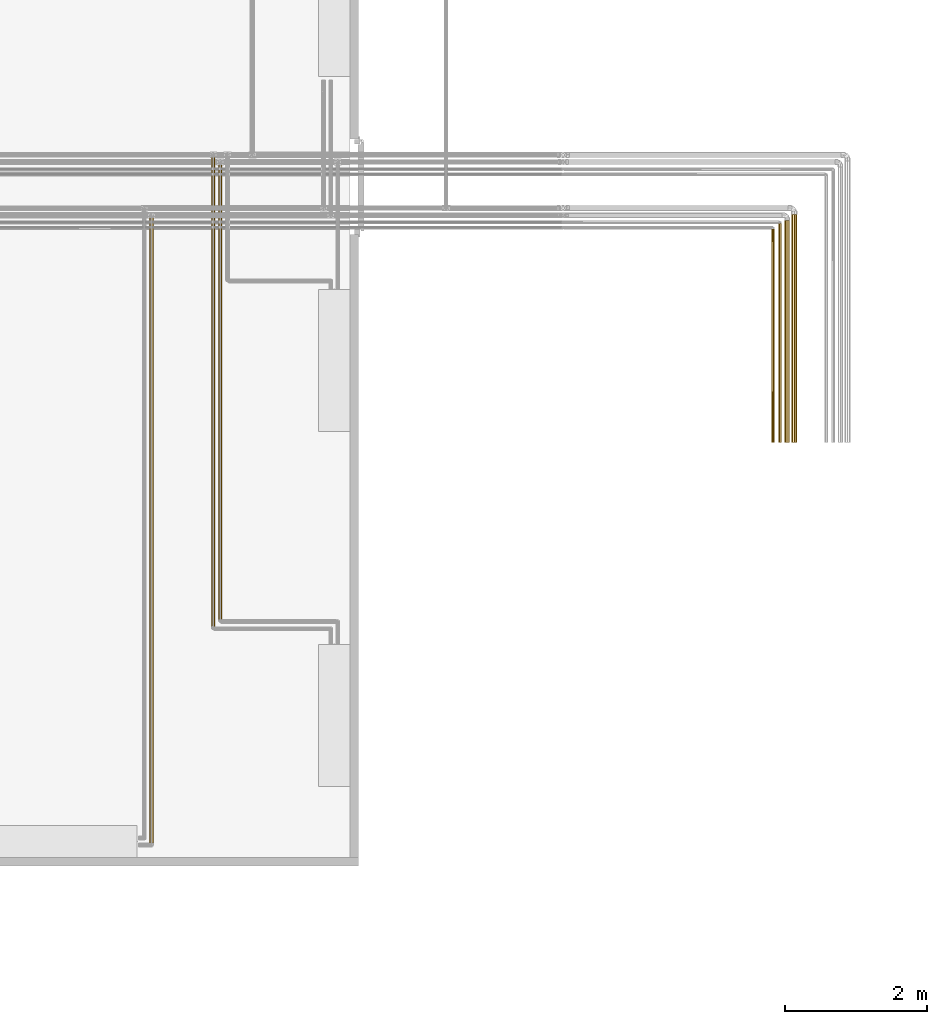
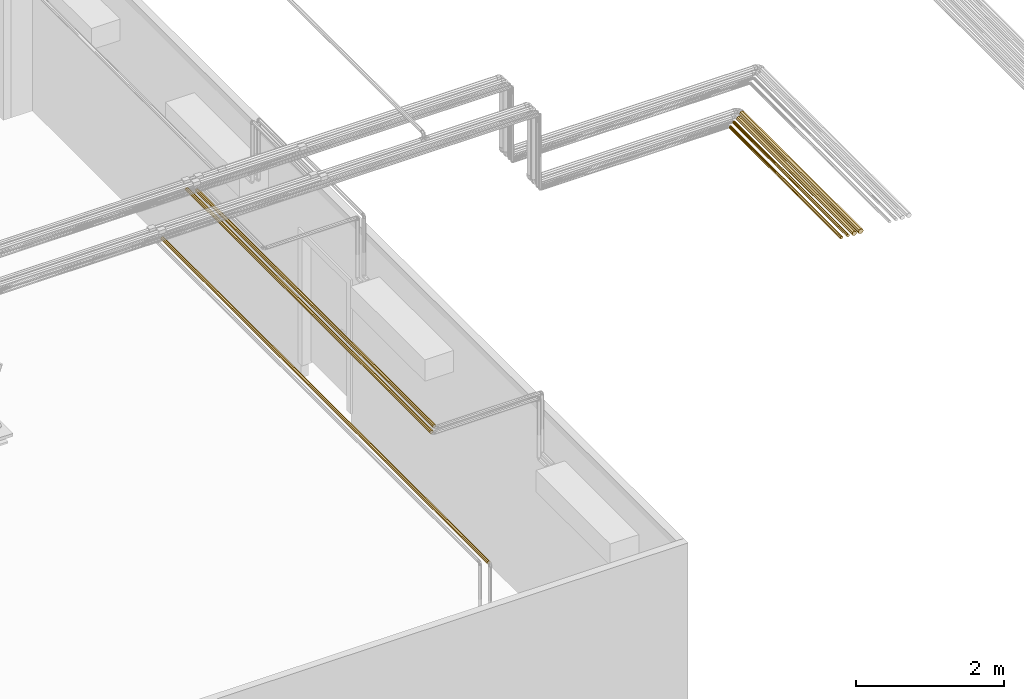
# One storey, part 102 of 652: 7 coverings.
"""IFC2X3 building model written with IfcOpenShell, lengths in millimetres."""

from ifc_helpers import new_model, entity, si_unit, converted_unit, direction, frame, origin, place, context, subcontext, project, spatial, faceted_brep, material, type_object, element, save


model = new_model("IFC2X3")

# Units and contexts
model_context = context("Model", 3, precision=0.01, world=frame((0.0, 0.0, 308426.39999999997)), true_north=direction((6.123233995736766e-17, 1.0)))
plan_context = context("Plan", 3, precision=0.01, world=frame((0.0, 0.0, 308426.39999999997)), true_north=direction((6.123233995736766e-17, 1.0)))
body_context = subcontext(model_context, "Body", "Model", "MODEL_VIEW")
ifc_project = project(units=[si_unit("LENGTHUNIT", "METRE", prefix="MILLI"), si_unit("AREAUNIT", "SQUARE_METRE"), si_unit("VOLUMEUNIT", "CUBIC_METRE"), converted_unit("PLANEANGLEUNIT", "DEGREE", entity("IfcPlaneAngleMeasure", 0.017453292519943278), si_unit("PLANEANGLEUNIT", "RADIAN"), dimensions=[0, 0, 0, 0, 0, 0, 0])], contexts=[model_context, plan_context])

# Site, building, storey
site_placement = place(None, origin())
site = spatial("IfcSite", under=ifc_project, at=site_placement, Name="Default", CompositionType="ELEMENT")
building_placement = place(site_placement, origin())
building = spatial("IfcBuilding", under=site, at=building_placement, CompositionType="ELEMENT")
storey_placement = place(building_placement, frame((0.0, 0.0, 1730.6999999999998)))
storey = spatial("IfcBuildingStorey", under=building, at=storey_placement, Name="EG_Produktion_FFB", CompositionType="ELEMENT", Elevation=1730.6999999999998)

# Coverings
ifc_material = material(Name="Dämmung - Armaflex-Schlauch")
covering_type = type_object("IfcCoveringType", Name="Rohrdämmung außen:Armaflex-Schlauch", PredefinedType="INSULATION")
covering_1_placement = place(storey_placement, frame((72616.9422277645, 37576.577886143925, 2526.895152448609)))
element("IfcCovering", 1, at=covering_1_placement, inside=storey, type_object=covering_type, material=ifc_material, Name="Rohrdämmung außen:Armaflex-Schlauch", ObjectType="Rohrdämmung außen:Armaflex-Schlauch", PredefinedType="INSULATION", context=body_context, shape_type="Brep", body=[
    faceted_brep([(38.057772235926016, 3124.3378638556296, 1.595272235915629), (31.87132064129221, 3124.3378638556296, 4.157784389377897), (25.166331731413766, 3124.3378638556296, 6.935081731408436), (18.72061147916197, 3124.3378638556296, 9.60498647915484), (12.274891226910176, 3124.3378638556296, 12.274891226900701), (9.60498647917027, 3124.3378638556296, 18.720611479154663), (6.935081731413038, 3124.3378638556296, 25.166331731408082), (4.265176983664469, 3124.3378638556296, 31.61205198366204), (1.5952722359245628, 3124.3378638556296, 38.05777223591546), (4.157784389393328, 3124.3378638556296, 44.24422383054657), (6.935081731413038, 3124.3378638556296, 50.9492127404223), (9.604986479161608, 3124.3378638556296, 57.39493299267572), (12.274891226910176, 3124.3378638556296, 63.840653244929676), (18.72061147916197, 3124.3378638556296, 66.51055799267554), (25.166331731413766, 3124.3378638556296, 69.18046274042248), (31.612051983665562, 3124.3378638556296, 71.85036748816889), (38.057772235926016, 3124.3378638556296, 74.5202722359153), (44.244223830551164, 3124.3378638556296, 71.95776008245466), (50.94921274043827, 3124.3378638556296, 69.18046274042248), (57.394932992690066, 3124.3378638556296, 66.51055799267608), (63.84065324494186, 3124.3378638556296, 63.840653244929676), (66.51055799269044, 3124.3378638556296, 57.39493299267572), (69.180462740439, 3124.3378638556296, 50.9492127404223), (71.85036748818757, 3124.3378638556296, 44.50349248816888), (74.52027223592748, 3124.3378638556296, 38.05777223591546), (71.8503674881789, 3124.3378638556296, 31.61205198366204), (69.180462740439, 3124.3378638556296, 25.166331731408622), (66.51055799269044, 3124.3378638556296, 18.720611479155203), (63.84065324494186, 3124.3378638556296, 12.274891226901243), (57.394932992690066, 3124.3378638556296, 9.60498647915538), (50.94921274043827, 3124.3378638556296, 6.935081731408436), (44.50349248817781, 3124.3378638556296, 4.265176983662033), (38.057772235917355, 0.0, 1.595272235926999), (44.24422383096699, 0.0, 4.157784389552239), (50.43067542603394, 0.0, 6.72029654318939), (57.1356643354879, 0.0, 9.497593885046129), (63.8406532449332, 0.0, 12.274891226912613), (66.51055799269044, 0.0, 18.720611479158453), (69.180462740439, 0.0, 25.16633173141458), (71.8503674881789, 0.0, 31.612051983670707), (74.52027223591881, 0.0, 38.057772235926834), (71.95776008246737, 0.0, 44.244223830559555), (69.39524792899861, 0.0, 50.430675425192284), (66.61795058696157, 0.0, 57.135664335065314), (63.8406532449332, 0.0, 63.84065324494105), (57.394932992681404, 0.0, 66.51055799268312), (50.94921274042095, 0.0, 69.18046274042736), (44.50349248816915, 0.0, 71.85036748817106), (38.057772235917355, 0.0, 74.52027223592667), (31.871320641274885, 0.0, 71.95776008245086), (25.684869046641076, 0.0, 69.39524792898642), (18.979880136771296, 0.0, 66.61795058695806), (12.274891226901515, 0.0, 63.84065324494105), (9.604986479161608, 0.0, 57.39493299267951), (6.935081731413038, 0.0, 50.94921274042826), (4.265176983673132, 0.0, 44.50349248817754), (1.5952722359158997, 0.0, 38.057772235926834), (4.157784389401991, 0.0, 31.87132064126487), (6.720296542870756, 0.0, 25.684869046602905), (9.497593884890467, 0.0, 18.979880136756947), (12.274891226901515, 0.0, 12.274891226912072), (18.72061147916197, 0.0, 9.60498647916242), (25.166331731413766, 0.0, 6.935081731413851), (31.612051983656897, 0.0, 4.26517698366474)], [[[0, 1, 2, 3, 4, 5, 6, 7, 8, 9, 10, 11, 12, 13, 14, 15, 16, 17, 18, 19, 20, 21, 22, 23, 24, 25, 26, 27, 28, 29, 30, 31]], [[32, 33, 34, 35, 36, 37, 38, 39, 40, 41, 42, 43, 44, 45, 46, 47, 48, 49, 50, 51, 52, 53, 54, 55, 56, 57, 58, 59, 60, 61, 62, 63]], [[38, 37, 36, 28, 27, 26, 25, 24, 40, 39]], [[34, 33, 32, 0, 31, 30, 29, 28, 36, 35]], [[1, 0, 32, 63, 62, 61, 60, 4, 3, 2]], [[4, 60, 59, 58, 57, 56, 8, 7, 6, 5]], [[9, 8, 56, 55, 54, 53, 52, 12, 11, 10]], [[12, 52, 51, 50, 49, 48, 16, 15, 14, 13]], [[17, 16, 48, 47, 46, 45, 44, 20, 19, 18]], [[20, 44, 43, 42, 41, 40, 24, 23, 22, 21]]]),
])
covering_2_placement = place(storey_placement, frame((72713.7672277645, 37576.577886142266, 2523.720152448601)))
element("IfcCovering", 2, at=covering_2_placement, inside=storey, type_object=covering_type, material=ifc_material, Name="Rohrdämmung außen:Armaflex-Schlauch", ObjectType="Rohrdämmung außen:Armaflex-Schlauch", PredefinedType="INSULATION", context=body_context, shape_type="Brep", body=[
    faceted_brep([(20.21181345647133, 3210.3043638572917, 72.16310601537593), (27.21879971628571, 3210.3043638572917, 75.06549475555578), (34.22578597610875, 3210.3043638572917, 77.96788349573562), (41.2327722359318, 3210.3043638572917, 80.87027223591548), (48.05683671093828, 3210.3043638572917, 78.0436521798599), (55.24674475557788, 3210.3043638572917, 75.06549475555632), (62.25373101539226, 3210.3043638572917, 72.16310601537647), (69.2607172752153, 3210.3043638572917, 69.26071727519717), (72.1631060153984, 3210.3043638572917, 62.25373101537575), (75.06549475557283, 3210.3043638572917, 55.24674475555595), (77.96788349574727, 3210.3043638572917, 48.23975849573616), (80.87027223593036, 3210.3043638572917, 41.232772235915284), (77.96788349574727, 3210.3043638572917, 34.22578597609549), (75.06549475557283, 3210.3043638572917, 27.21879971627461), (72.1631060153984, 3210.3043638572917, 20.211813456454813), (69.2607172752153, 3210.3043638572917, 13.204827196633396), (62.25373101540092, 3210.3043638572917, 10.302438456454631), (55.24674475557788, 3210.3043638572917, 7.400049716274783), (48.23975849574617, 3210.3043638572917, 4.497660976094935), (41.2327722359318, 3210.3043638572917, 1.5952722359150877), (34.40870776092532, 3210.3043638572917, 4.421892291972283), (27.21879971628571, 3210.3043638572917, 7.400049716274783), (20.21181345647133, 3210.3043638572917, 10.302438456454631), (13.204827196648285, 3210.3043638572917, 13.204827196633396), (10.302438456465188, 3210.3043638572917, 20.211813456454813), (7.400049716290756, 3210.3043638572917, 27.21879971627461), (4.497660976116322, 3210.3043638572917, 34.22578597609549), (1.5952722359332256, 3210.3043638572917, 41.232772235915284), (4.421892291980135, 3210.3043638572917, 48.05683671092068), (7.400049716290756, 3210.3043638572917, 55.24674475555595), (10.302438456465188, 3210.3043638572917, 62.25373101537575), (13.204827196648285, 3210.3043638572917, 69.26071727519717), (1.5952722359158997, 0.0, 41.232772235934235), (4.421892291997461, 0.0, 34.40870776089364), (7.248512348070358, 0.0, 27.58464328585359), (10.226669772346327, 0.0, 20.394735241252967), (13.204827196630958, 0.0, 13.204827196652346), (20.211813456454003, 0.0, 10.302438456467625), (27.218799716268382, 0.0, 7.400049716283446), (34.22578597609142, 0.0, 4.497660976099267), (41.23277223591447, 0.0, 1.5952722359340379), (48.05683671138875, 0.0, 4.421892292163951), (54.88090118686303, 0.0, 7.248512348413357), (62.0708092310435, 0.0, 10.226669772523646), (69.26071727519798, 0.0, 13.204827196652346), (72.1631060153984, 0.0, 20.211813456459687), (75.06549475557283, 0.0, 27.218799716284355), (77.96788349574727, 0.0, 34.22578597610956), (80.87027223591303, 0.0, 41.232772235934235), (78.04365217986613, 0.0, 48.05683671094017), (75.21703212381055, 0.0, 54.88090118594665), (72.2388746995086, 0.0, 62.07080923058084), (69.26071727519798, 0.0, 69.26071727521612), (62.25373101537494, 0.0, 72.16310601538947), (55.246744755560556, 0.0, 75.06549475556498), (48.23975849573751, 0.0, 77.9678834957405), (41.23277223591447, 0.0, 80.87027223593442), (34.40870776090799, 0.0, 78.04365217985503), (27.58464328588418, 0.0, 75.21703212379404), (20.394735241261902, 0.0, 72.23887469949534), (13.204827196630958, 0.0, 69.26071727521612), (10.302438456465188, 0.0, 62.25373101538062), (7.400049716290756, 0.0, 55.2467447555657), (4.497660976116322, 0.0, 48.23975849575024)], [[[0, 1, 2, 3, 4, 5, 6, 7, 8, 9, 10, 11, 12, 13, 14, 15, 16, 17, 18, 19, 20, 21, 22, 23, 24, 25, 26, 27, 28, 29, 30, 31]], [[32, 33, 34, 35, 36, 37, 38, 39, 40, 41, 42, 43, 44, 45, 46, 47, 48, 49, 50, 51, 52, 53, 54, 55, 56, 57, 58, 59, 60, 61, 62, 63]], [[46, 45, 44, 15, 14, 13, 12, 11, 48, 47]], [[42, 41, 40, 19, 18, 17, 16, 15, 44, 43]], [[20, 19, 40, 39, 38, 37, 36, 23, 22, 21]], [[23, 36, 35, 34, 33, 32, 27, 26, 25, 24]], [[28, 27, 32, 63, 62, 61, 60, 31, 30, 29]], [[31, 60, 59, 58, 57, 56, 3, 2, 1, 0]], [[4, 3, 56, 55, 54, 53, 52, 7, 6, 5]], [[7, 52, 51, 50, 49, 48, 11, 10, 9, 8]]]),
])
covering_3_placement = place(storey_placement, frame((64641.4672277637, 35081.98219970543, 3728.532772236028)))
element("IfcCovering", 3, at=covering_3_placement, inside=storey, type_object=covering_type, material=ifc_material, Name="Rohrdämmung außen:Armaflex-Schlauch", ObjectType="Rohrdämmung außen:Armaflex-Schlauch", PredefinedType="INSULATION", context=body_context, shape_type="Brep", body=[
    faceted_brep([(9.485083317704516, 0.0, -9.485083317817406), (7.512630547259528, 0.0, -14.247005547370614), (5.54017777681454, 0.0, -19.008927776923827), (3.567725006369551, 0.0, -23.770850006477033), (1.5952722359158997, 0.0, -28.532772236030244), (3.567725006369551, 0.0, -33.294694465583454), (5.54017777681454, 0.0, -38.05661669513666), (7.512630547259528, 0.0, -42.818538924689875), (9.485083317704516, 0.0, -47.58046115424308), (14.247005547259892, 0.0, -49.55291392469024), (19.008927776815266, 0.0, -51.52536669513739), (23.77085000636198, 0.0, -53.49781946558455), (28.532772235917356, 0.0, -55.47027223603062), (32.36161821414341, 0.0, -53.884312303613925), (38.05661669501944, 0.0, -51.52536669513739), (42.81853892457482, 0.0, -49.55291392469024), (47.5804611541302, 0.0, -47.58046115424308), (49.552913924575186, 0.0, -42.818538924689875), (51.525366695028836, 0.0, -38.05661669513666), (53.497819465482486, 0.0, -33.294694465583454), (55.47027223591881, 0.0, -28.532772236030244), (53.8843123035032, 0.0, -24.703926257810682), (51.525366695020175, 0.0, -19.008927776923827), (49.552913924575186, 0.0, -14.247005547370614), (47.5804611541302, 0.0, -9.485083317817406), (42.81853892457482, 0.0, -7.512630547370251), (38.05661669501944, 0.0, -5.540177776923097), (33.29469446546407, 0.0, -3.567725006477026), (28.532772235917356, 0.0, -1.5952722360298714), (23.77085000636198, 0.0, -3.567725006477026), (19.008927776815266, 0.0, -5.540177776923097), (14.247005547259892, 0.0, -7.512630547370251), (47.58046115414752, 6411.032500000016, -47.58046115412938), (42.81853892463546, 6411.032500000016, -49.55291392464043), (38.05661669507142, 6411.032500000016, -51.52536669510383), (33.29469446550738, 6411.032500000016, -53.49781946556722), (28.532772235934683, 6411.032500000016, -55.470272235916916), (20.87508027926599, 6411.032500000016, -52.29835237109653), (15.180081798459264, 6411.032500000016, -49.9394067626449), (9.485083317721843, 6411.032500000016, -47.58046115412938), (7.512630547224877, 6411.032500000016, -42.8185389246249), (5.540177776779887, 6411.032500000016, -38.056616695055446), (3.5677250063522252, 6411.032500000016, -33.294694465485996), (1.5952722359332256, 6411.032500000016, -28.532772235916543), (3.567725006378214, 6411.032500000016, -23.770850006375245), (5.540177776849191, 6411.032500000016, -19.00892777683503), (7.512630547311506, 6411.032500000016, -14.247005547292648), (9.485083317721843, 6411.032500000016, -9.485083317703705), (15.180081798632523, 6411.032500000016, -7.126137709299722), (20.875080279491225, 6411.032500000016, -4.767192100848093), (28.532772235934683, 6411.032500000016, -1.5952722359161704), (36.19046419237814, 6411.032500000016, -4.767192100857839), (41.885462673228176, 6411.032500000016, -7.126137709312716), (47.58046115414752, 6411.032500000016, -9.485083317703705), (49.55291392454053, 6411.032500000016, -14.247005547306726), (51.525366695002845, 6411.032500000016, -19.00892777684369), (53.497819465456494, 6411.032500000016, -23.770850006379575), (55.470272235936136, 6411.032500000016, -28.532772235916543), (52.29835237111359, 6411.032500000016, -36.19046419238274), (49.93940676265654, 6411.032500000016, -41.88546267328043)], [[[0, 1, 2, 3, 4, 5, 6, 7, 8, 9, 10, 11, 12, 13, 14, 15, 16, 17, 18, 19, 20, 21, 22, 23, 24, 25, 26, 27, 28, 29, 30, 31]], [[32, 33, 34, 35, 36, 37, 38, 39, 40, 41, 42, 43, 44, 45, 46, 47, 48, 49, 50, 51, 52, 53, 54, 55, 56, 57, 58, 59]], [[41, 40, 39, 8, 7, 6, 5, 4, 43, 42]], [[37, 36, 12, 11, 10, 9, 8, 39, 38]], [[34, 33, 32, 16, 15, 14, 13, 12, 36, 35]], [[16, 32, 59, 58, 57, 20, 19, 18, 17]], [[55, 54, 53, 24, 23, 22, 21, 20, 57, 56]], [[24, 53, 52, 51, 50, 28, 27, 26, 25]], [[50, 49, 48, 47, 0, 31, 30, 29, 28]], [[0, 47, 46, 45, 44, 43, 4, 3, 2, 1]]]),
])
covering_4_placement = place(storey_placement, frame((63671.46722776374, 31934.02030774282, 3671.467227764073)))
element("IfcCovering", 4, at=covering_4_placement, inside=storey, type_object=covering_type, material=ifc_material, Name="Rohrdämmung außen:Armaflex-Schlauch", ObjectType="Rohrdämmung außen:Armaflex-Schlauch", PredefinedType="INSULATION", context=body_context, shape_type="Brep", body=[
    faceted_brep([(9.485083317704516, 8808.995942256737, 9.485083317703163), (7.512630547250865, 8808.995942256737, 14.247005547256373), (5.540177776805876, 8808.995942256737, 19.008927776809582), (3.567725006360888, 8808.995942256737, 23.770850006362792), (1.5952722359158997, 8808.995942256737, 28.532772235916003), (3.903739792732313, 8808.995942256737, 34.105905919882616), (5.540177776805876, 8808.995942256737, 38.05661669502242), (7.512630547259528, 8808.995942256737, 42.818538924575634), (9.485083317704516, 8808.995942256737, 47.58046115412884), (14.247005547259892, 8808.995942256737, 49.552913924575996), (19.008927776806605, 8808.995942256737, 51.52536669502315), (23.77085000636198, 8808.995942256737, 53.49781946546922), (28.532772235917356, 8808.995942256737, 55.470272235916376), (34.10590591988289, 8808.995942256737, 53.16180467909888), (38.056616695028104, 8808.995942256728, 51.525366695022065), (42.81853892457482, 8808.995942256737, 49.552913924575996), (47.5804611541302, 8808.995942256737, 47.58046115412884), (49.55291392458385, 8808.995942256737, 42.818538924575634), (51.525366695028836, 8808.995942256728, 38.05661669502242), (53.497819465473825, 8808.995942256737, 33.29469446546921), (55.47027223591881, 8808.995942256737, 28.532772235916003), (53.497819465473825, 8808.995942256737, 23.770850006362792), (51.525366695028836, 8808.995942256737, 19.008927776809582), (49.55291392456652, 8808.995942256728, 14.247005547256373), (47.5804611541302, 8808.995942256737, 9.485083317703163), (42.81853892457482, 8808.995942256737, 7.512630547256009), (38.056616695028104, 8808.995942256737, 5.5401777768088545), (33.29469446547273, 8808.995942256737, 3.567725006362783), (28.532772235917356, 8808.995942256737, 1.595272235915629), (22.959638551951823, 8808.995942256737, 3.903739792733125), (19.008927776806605, 8808.995942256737, 5.5401777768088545), (14.247005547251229, 8808.995942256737, 7.512630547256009), (47.5804611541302, 0.0, 47.58046115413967), (42.818538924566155, 0.0, 49.552913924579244), (38.05661669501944, 0.0, 51.52536669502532), (33.29469446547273, 0.0, 53.49781946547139), (28.532772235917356, 0.0, 55.470272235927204), (22.959638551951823, 0.0, 53.16180467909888), (17.386504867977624, 0.0, 50.85333712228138), (9.485083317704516, 0.0, 47.58046115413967), (7.512630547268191, 0.0, 42.81853892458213), (5.54017777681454, 0.0, 38.05661669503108), (3.567725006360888, 0.0, 33.294694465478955), (1.5952722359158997, 0.0, 28.53277223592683), (3.903739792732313, 0.0, 22.95963855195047), (6.212207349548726, 0.0, 17.386504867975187), (9.485083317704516, 0.0, 9.485083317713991), (14.247005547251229, 0.0, 7.51263054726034), (19.008927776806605, 0.0, 5.540177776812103), (23.77085000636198, 0.0, 3.567725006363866), (28.532772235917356, 0.0, 1.5952722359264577), (34.10590592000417, 0.0, 3.9037397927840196), (39.67903960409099, 0.0, 6.21220734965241), (47.5804611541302, 0.0, 9.485083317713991), (49.55291392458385, 0.0, 14.24700554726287), (51.525366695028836, 0.0, 19.008927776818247), (53.497819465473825, 0.0, 23.770850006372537), (55.47027223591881, 0.0, 28.53277223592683), (53.161804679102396, 0.0, 34.105905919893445), (50.853337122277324, 0.0, 39.67903960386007)], [[[0, 1, 2, 3, 4, 5, 6, 7, 8, 9, 10, 11, 12, 13, 14, 15, 16, 17, 18, 19, 20, 21, 22, 23, 24, 25, 26, 27, 28, 29, 30, 31]], [[32, 33, 34, 35, 36, 37, 38, 39, 40, 41, 42, 43, 44, 45, 46, 47, 48, 49, 50, 51, 52, 53, 54, 55, 56, 57, 58, 59]], [[55, 54, 53, 24, 23, 22, 21, 20, 57, 56]], [[53, 52, 51, 50, 28, 27, 26, 25, 24]], [[43, 4, 3, 2, 1, 0, 46, 45, 44]], [[31, 30, 29, 28, 50, 49, 48, 47, 46, 0]], [[36, 12, 11, 10, 9, 8, 39, 38, 37]], [[7, 6, 5, 4, 43, 42, 41, 40, 39, 8]], [[57, 20, 19, 18, 17, 16, 32, 59, 58]], [[15, 14, 13, 12, 36, 35, 34, 33, 32, 16]]]),
])
covering_5_placement = place(storey_placement, frame((64541.46722776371, 34981.98219970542, 3728.5327722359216)))
element("IfcCovering", 5, at=covering_5_placement, inside=storey, type_object=covering_type, material=ifc_material, Name="Rohrdämmung außen:Armaflex-Schlauch", ObjectType="Rohrdämmung außen:Armaflex-Schlauch", PredefinedType="INSULATION", context=body_context, shape_type="Brep", body=[
    faceted_brep([(9.485083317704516, 0.0, -9.4850833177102), (7.512630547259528, 0.0, -14.247005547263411), (5.54017777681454, 0.0, -19.00892777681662), (3.567725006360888, 0.0, -23.77085000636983), (1.5952722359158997, 0.0, -28.53277223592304), (3.567725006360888, 0.0, -33.29469446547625), (5.54017777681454, 0.0, -38.05661669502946), (7.512630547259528, 0.0, -42.81853892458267), (9.485083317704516, 0.0, -47.58046115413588), (14.247005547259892, 0.0, -49.55291392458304), (19.008927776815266, 0.0, -51.525366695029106), (23.77085000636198, 0.0, -53.49781946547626), (28.532772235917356, 0.0, -55.47027223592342), (32.245786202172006, 0.0, -53.93229149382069), (38.05661669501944, 0.0, -51.525366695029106), (42.81853892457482, 0.0, -49.55291392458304), (47.5804611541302, 0.0, -47.58046115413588), (49.552913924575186, 0.0, -42.81853892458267), (51.525366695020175, 0.0, -38.05661669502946), (53.49781946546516, 0.0, -33.29469446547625), (55.47027223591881, 0.0, -28.53277223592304), (53.932291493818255, 0.0, -24.81975826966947), (51.525366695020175, 0.0, -19.00892777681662), (49.552913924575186, 0.0, -14.247005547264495), (47.5804611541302, 0.0, -9.4850833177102), (42.81853892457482, 0.0, -7.512630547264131), (38.05661669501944, 0.0, -5.540177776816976), (33.29469446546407, 0.0, -3.567725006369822), (28.532772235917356, 0.0, -1.5952722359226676), (21.106744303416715, 0.0, -4.671233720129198), (15.295913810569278, 0.0, -7.078158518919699), (47.58046115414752, 6611.032500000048, -47.5804611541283), (42.818538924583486, 6611.032500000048, -49.55291392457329), (38.05661669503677, 6611.032500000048, -51.52536669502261), (33.29469446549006, 6611.032500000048, -53.497819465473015), (28.532772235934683, 6611.032500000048, -55.470272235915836), (21.106744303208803, 6611.032500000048, -52.39431075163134), (15.295913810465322, 6611.032500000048, -49.987385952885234), (9.485083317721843, 6611.032500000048, -47.5804611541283), (7.512630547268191, 6611.032500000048, -42.818538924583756), (5.54017777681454, 6611.032500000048, -38.056616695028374), (3.567725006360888, 6611.032500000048, -33.29469446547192), (1.5952722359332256, 6611.032500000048, -28.53277223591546), (4.671233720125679, 6611.032500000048, -21.10674430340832), (7.078158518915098, 6611.032500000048, -15.295913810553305), (9.485083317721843, 6611.032500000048, -9.485083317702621), (14.247005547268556, 6611.032500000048, -7.512630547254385), (19.00892777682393, 6611.032500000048, -5.540177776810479), (23.770850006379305, 6611.032500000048, -3.5677250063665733), (28.532772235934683, 6611.032500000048, -1.5952722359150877), (35.95880016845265, 6611.032500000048, -4.67123372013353), (41.769630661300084, 6611.032500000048, -7.078158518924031), (47.58046115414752, 6611.032500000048, -9.485083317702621), (49.55291392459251, 6611.032500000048, -14.247005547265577), (51.525366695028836, 6611.032500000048, -19.00892777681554), (53.497819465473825, 6611.032500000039, -23.7708500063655), (55.470272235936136, 6611.032500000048, -28.53277223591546), (52.394310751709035, 6611.032500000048, -35.95880016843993), (49.98738595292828, 6611.032500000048, -41.769630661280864)], [[[0, 1, 2, 3, 4, 5, 6, 7, 8, 9, 10, 11, 12, 13, 14, 15, 16, 17, 18, 19, 20, 21, 22, 23, 24, 25, 26, 27, 28, 29, 30]], [[31, 32, 33, 34, 35, 36, 37, 38, 39, 40, 41, 42, 43, 44, 45, 46, 47, 48, 49, 50, 51, 52, 53, 54, 55, 56, 57, 58]], [[40, 39, 38, 8, 7, 6, 5, 4, 42, 41]], [[36, 35, 12, 11, 10, 9, 8, 38, 37]], [[33, 32, 31, 16, 15, 14, 13, 12, 35, 34]], [[16, 31, 58, 57, 56, 20, 19, 18, 17]], [[54, 53, 52, 24, 23, 22, 21, 20, 56, 55]], [[24, 52, 51, 50, 49, 28, 27, 26, 25]], [[29, 28, 49, 48, 47, 46, 45, 0, 30]], [[0, 45, 44, 43, 42, 4, 3, 2, 1]]]),
])
covering_6_placement = place(storey_placement, frame((72529.64222776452, 37576.577886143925, 2539.595152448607)))
element("IfcCovering", 6, at=covering_6_placement, inside=storey, type_object=covering_type, material=ifc_material, Name="Rohrdämmung außen:Armaflex-Schlauch", ObjectType="Rohrdämmung außen:Armaflex-Schlauch", PredefinedType="INSULATION", context=body_context, shape_type="Brep", body=[
    faceted_brep([(20.423230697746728, 3080.471863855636, 48.04709335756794), (25.35777223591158, 3080.471863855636, 49.1202722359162), (28.658813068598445, 3080.471863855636, 47.75293635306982), (33.759084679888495, 3080.471863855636, 45.640334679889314), (37.95974090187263, 3080.471863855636, 43.90036590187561), (42.160397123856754, 3080.471863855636, 42.16039712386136), (43.90036590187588, 3080.471863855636, 37.959740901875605), (45.640334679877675, 3080.471863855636, 33.75908467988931), (47.38030345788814, 3080.471863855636, 29.558428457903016), (49.12027223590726, 3080.471863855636, 25.357772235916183), (47.3803034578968, 3080.471863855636, 21.15711601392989), (45.640334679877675, 3080.471863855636, 16.956459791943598), (43.90036590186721, 3080.4718638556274, 12.755803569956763), (42.160397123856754, 3080.471863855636, 8.55514734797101), (37.95974090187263, 3080.471863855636, 6.8151785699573), (33.759084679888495, 3080.471863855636, 5.075209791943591), (29.558428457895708, 3080.471863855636, 3.3352410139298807), (25.35777223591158, 3080.471863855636, 1.5952722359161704), (20.423230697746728, 3080.471863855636, 2.6684511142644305), (15.488689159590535, 3080.471863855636, 3.741629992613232), (11.4481056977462, 3080.471863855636, 6.764379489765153), (7.407522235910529, 3080.471863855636, 9.787128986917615), (7.407522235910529, 3080.471863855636, 40.92841548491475), (11.4481056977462, 3080.471863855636, 43.95116498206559), (15.488689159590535, 3080.471863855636, 46.97391447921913), (1.5952722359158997, 0.0, 25.357772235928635), (3.3352410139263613, 0.0, 21.15711601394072), (5.075209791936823, 0.0, 16.956459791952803), (6.815178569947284, 0.0, 12.755803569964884), (8.55514734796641, 0.0, 8.555147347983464), (12.755803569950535, 0.0, 6.815178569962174), (16.956459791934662, 0.0, 5.075209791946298), (21.15711601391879, 0.0, 3.3352410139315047), (25.35777223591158, 0.0, 1.5952722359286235), (31.959853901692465, 0.0, 4.329944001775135), (37.06012551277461, 0.0, 6.442545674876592), (42.160397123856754, 0.0, 8.555147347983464), (43.90036590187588, 0.0, 12.755803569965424), (45.64033467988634, 0.0, 16.956459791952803), (47.3803034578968, 0.0, 21.157116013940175), (49.12027223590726, 0.0, 25.357772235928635), (46.385600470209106, 0.0, 31.959853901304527), (44.27299879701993, 0.0, 37.06012551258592), (42.160397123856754, 0.0, 42.16039712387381), (37.95974090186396, 0.0, 43.90036590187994), (33.759084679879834, 0.0, 45.64033467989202), (29.55842845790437, 0.0, 47.38030345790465), (25.35777223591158, 0.0, 49.120272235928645), (22.056731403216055, 0.0, 47.75293635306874), (16.956459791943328, 0.0, 45.64033467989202), (12.755803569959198, 0.0, 43.90036590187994), (8.55514734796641, 0.0, 42.16039712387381), (6.815178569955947, 0.0, 37.95974090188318), (5.075209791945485, 0.0, 33.759084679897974), (3.335241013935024, 0.0, 29.558428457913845), (2.345488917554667, 3075.4098305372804, 21.202751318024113), (5.251613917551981, 3078.3159555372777, 13.417429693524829), (3.095705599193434, 3076.160047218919, 17.047730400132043), (1.5952722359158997, 3074.6596138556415, 25.357772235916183), (2.345488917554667, 3075.4098305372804, 29.512793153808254), (3.095705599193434, 3076.160047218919, 33.66781407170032), (5.251613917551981, 3078.3159555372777, 37.298114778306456)], [[[0, 1, 2, 3, 4, 5, 6, 7, 8, 9, 10, 11, 12, 13, 14, 15, 16, 17, 18, 19, 20, 21, 22, 23, 24]], [[25, 26, 27, 28, 29, 30, 31, 32, 33, 34, 35, 36, 37, 38, 39, 40, 41, 42, 43, 44, 45, 46, 47, 48, 49, 50, 51, 52, 53, 54]], [[38, 37, 36, 13, 12, 11, 10, 9, 40, 39]], [[34, 33, 17, 16, 15, 14, 13, 36, 35]], [[20, 30, 29]], [[33, 32, 17]], [[31, 19, 18]], [[31, 30, 19]], [[25, 55, 26]], [[21, 28, 56]], [[57, 27, 26]], [[18, 32, 31]], [[27, 57, 56]], [[19, 30, 20]], [[55, 57, 26]], [[17, 32, 18]], [[29, 21, 20]], [[58, 55, 25]], [[28, 21, 29]], [[28, 27, 56]], [[25, 59, 58]], [[0, 49, 48]], [[59, 25, 54]], [[60, 53, 61]], [[23, 51, 50]], [[51, 23, 22]], [[49, 0, 24]], [[22, 52, 51]], [[53, 60, 54]], [[48, 1, 0]], [[22, 61, 52]], [[50, 24, 23]], [[50, 49, 24]], [[54, 60, 59]], [[48, 47, 1]], [[61, 53, 52]], [[45, 44, 43, 5, 4, 3, 2, 1, 47, 46]], [[5, 43, 42, 41, 40, 9, 8, 7, 6]], [[59, 60, 61, 22, 21, 56, 57, 55, 58]]]),
])
covering_7_placement = place(storey_placement, frame((72429.6422277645, 37576.577886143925, 2539.5951524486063)))
element("IfcCovering", 7, at=covering_7_placement, inside=storey, type_object=covering_type, material=ifc_material, Name="Rohrdämmung außen:Armaflex-Schlauch", ObjectType="Rohrdämmung außen:Armaflex-Schlauch", PredefinedType="INSULATION", context=body_context, shape_type="Brep", body=[
    faceted_brep([(20.423230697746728, 3005.471863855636, 48.04709335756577), (25.35777223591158, 3005.471863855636, 49.12027223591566), (28.741188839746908, 3005.471863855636, 47.71881519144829), (33.759084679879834, 3005.471863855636, 45.640334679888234), (37.95974090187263, 3005.471863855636, 43.90036590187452), (42.160397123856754, 3005.471863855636, 42.16039712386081), (43.90036590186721, 3005.471863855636, 37.95974090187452), (45.640334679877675, 3005.4718638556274, 33.759084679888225), (47.3803034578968, 3005.471863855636, 29.558428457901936), (49.12027223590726, 3005.471863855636, 25.35777223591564), (47.3803034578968, 3005.471863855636, 21.157116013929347), (45.64033467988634, 3005.471863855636, 16.956459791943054), (43.90036590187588, 3005.471863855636, 12.755803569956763), (42.160397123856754, 3005.471863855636, 8.55514734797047), (37.95974090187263, 3005.471863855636, 6.8151785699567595), (33.759084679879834, 3005.471863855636, 5.075209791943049), (29.558428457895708, 3005.471863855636, 3.335241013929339), (25.35777223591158, 3005.471863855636, 1.595272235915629), (20.423230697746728, 3005.471863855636, 2.668451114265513), (15.488689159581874, 3005.471863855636, 3.7416299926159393), (11.4481056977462, 3005.471863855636, 6.7643794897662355), (7.407522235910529, 3005.471863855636, 9.787128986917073), (7.407522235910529, 3005.471863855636, 40.92841548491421), (11.4481056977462, 3005.471863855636, 43.951164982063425), (15.488689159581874, 3005.471863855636, 46.973914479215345), (1.5952722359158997, 0.0, 25.35777223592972), (3.3352410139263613, 0.0, 21.15711601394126), (5.075209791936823, 0.0, 16.956459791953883), (6.815178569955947, 0.0, 12.755803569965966), (8.55514734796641, 0.0, 8.555147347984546), (12.755803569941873, 0.0, 6.815178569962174), (16.956459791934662, 0.0, 5.075209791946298), (21.157116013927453, 0.0, 3.3352410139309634), (25.35777223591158, 0.0, 1.5952722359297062), (32.12460544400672, 0.0, 4.398186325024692), (37.142501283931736, 0.0, 6.476666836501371), (42.160397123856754, 0.0, 8.555147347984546), (43.90036590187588, 0.0, 12.755803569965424), (45.64033467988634, 0.0, 16.956459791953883), (47.3803034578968, 0.0, 21.15711601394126), (49.12027223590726, 0.0, 25.35777223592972), (46.31735814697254, 0.0, 32.12460544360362), (44.23887763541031, 0.0, 37.14250128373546), (42.160397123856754, 0.0, 42.160397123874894), (37.95974090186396, 0.0, 43.90036590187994), (33.759084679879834, 0.0, 45.64033467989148), (29.558428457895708, 0.0, 47.380303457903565), (25.35777223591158, 0.0, 49.12027223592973), (21.974355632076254, 0.0, 47.71881519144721), (16.956459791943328, 0.0, 45.64033467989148), (12.755803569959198, 0.0, 43.90036590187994), (8.55514734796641, 0.0, 42.160397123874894), (6.815178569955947, 0.0, 37.95974090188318), (5.075209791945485, 0.0, 33.759084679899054), (3.335241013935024, 0.0, 29.55842845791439), (2.345488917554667, 3000.40983053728, 21.202751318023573), (5.251613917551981, 3003.315955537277, 13.417429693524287), (3.095705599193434, 3001.160047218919, 17.047730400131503), (1.5952722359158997, 2999.659613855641, 25.35777223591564), (2.345488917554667, 3000.40983053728, 29.51279315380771), (3.095705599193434, 3001.160047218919, 33.66781407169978), (5.251613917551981, 3003.315955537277, 37.29811477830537)], [[[0, 1, 2, 3, 4, 5, 6, 7, 8, 9, 10, 11, 12, 13, 14, 15, 16, 17, 18, 19, 20, 21, 22, 23, 24]], [[25, 26, 27, 28, 29, 30, 31, 32, 33, 34, 35, 36, 37, 38, 39, 40, 41, 42, 43, 44, 45, 46, 47, 48, 49, 50, 51, 52, 53, 54]], [[38, 37, 36, 13, 12, 11, 10, 9, 40, 39]], [[34, 33, 17, 16, 15, 14, 13, 36, 35]], [[20, 30, 29]], [[33, 32, 17]], [[31, 19, 18]], [[31, 30, 19]], [[25, 55, 26]], [[21, 28, 56]], [[57, 27, 26]], [[18, 32, 31]], [[27, 57, 56]], [[19, 30, 20]], [[55, 57, 26]], [[17, 32, 18]], [[29, 21, 20]], [[58, 55, 25]], [[28, 21, 29]], [[28, 27, 56]], [[25, 59, 58]], [[0, 49, 48]], [[59, 25, 54]], [[60, 53, 61]], [[23, 51, 50]], [[51, 23, 22]], [[49, 0, 24]], [[22, 52, 51]], [[53, 60, 54]], [[48, 1, 0]], [[22, 61, 52]], [[50, 24, 23]], [[50, 49, 24]], [[54, 60, 59]], [[48, 47, 1]], [[61, 53, 52]], [[45, 44, 43, 5, 4, 3, 2, 1, 47, 46]], [[5, 43, 42, 41, 40, 9, 8, 7, 6]], [[59, 60, 61, 22, 21, 56, 57, 55, 58]]]),
])

save(model, "model.ifc")
